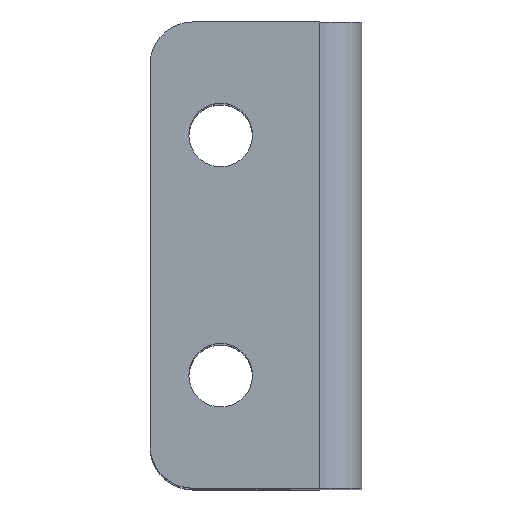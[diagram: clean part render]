
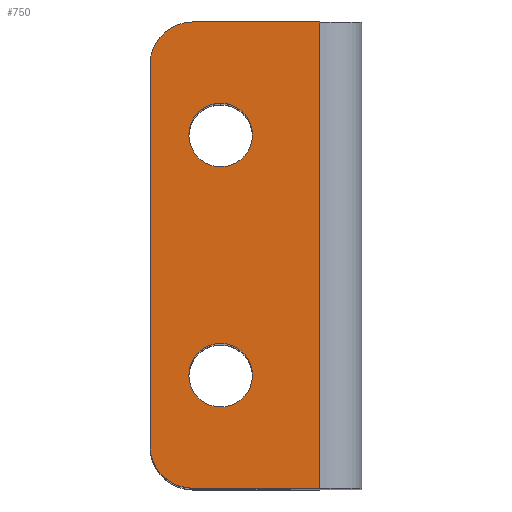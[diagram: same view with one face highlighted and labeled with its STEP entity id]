
A CAD part, top view. The second image highlights one B-rep face of the part: STEP entity #750.
In plain terms, the highlighted planar face has unit normal (0, 0, 1).
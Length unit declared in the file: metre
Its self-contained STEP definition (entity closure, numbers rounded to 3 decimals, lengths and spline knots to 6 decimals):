
#59=LINE('',#1233,#117);
#65=LINE('',#1248,#123);
#68=LINE('',#1254,#126);
#72=LINE('',#1272,#130);
#117=VECTOR('',#980,1.);
#123=VECTOR('',#992,1.);
#126=VECTOR('',#997,1.);
#130=VECTOR('',#1017,1.);
#236=ORIENTED_EDGE('',*,*,#427,.T.);
#237=ORIENTED_EDGE('',*,*,#438,.T.);
#238=ORIENTED_EDGE('',*,*,#419,.T.);
#239=ORIENTED_EDGE('',*,*,#439,.T.);
#240=ORIENTED_EDGE('',*,*,#430,.F.);
#241=ORIENTED_EDGE('',*,*,#440,.T.);
#242=ORIENTED_EDGE('',*,*,#436,.T.);
#243=ORIENTED_EDGE('',*,*,#437,.T.);
#419=EDGE_CURVE('',#524,#525,#59,.T.);
#427=EDGE_CURVE('',#530,#529,#65,.T.);
#430=EDGE_CURVE('',#531,#532,#68,.T.);
#436=EDGE_CURVE('',#536,#536,#582,.T.);
#437=EDGE_CURVE('',#537,#537,#583,.T.);
#438=EDGE_CURVE('',#529,#524,#584,.F.);
#439=EDGE_CURVE('',#525,#532,#72,.F.);
#440=EDGE_CURVE('',#531,#530,#585,.F.);
#524=VERTEX_POINT('',#1234);
#525=VERTEX_POINT('',#1235);
#529=VERTEX_POINT('',#1247);
#530=VERTEX_POINT('',#1249);
#531=VERTEX_POINT('',#1253);
#532=VERTEX_POINT('',#1255);
#536=VERTEX_POINT('',#1266);
#537=VERTEX_POINT('',#1269);
#582=CIRCLE('',#838,0.002858);
#583=CIRCLE('',#840,0.002858);
#584=CIRCLE('',#842,0.00381);
#585=CIRCLE('',#843,0.00381);
#616=EDGE_LOOP('',(#236,#237,#238,#239,#240,#241));
#617=EDGE_LOOP('',(#242));
#618=EDGE_LOOP('',(#243));
#682=FACE_BOUND('',#616,.T.);
#683=FACE_BOUND('',#617,.T.);
#684=FACE_BOUND('',#618,.T.);
#732=PLANE('',#841);
#750=ADVANCED_FACE('',(#682,#683,#684),#732,.F.);
#838=AXIS2_PLACEMENT_3D('',#1265,#1007,#1008);
#840=AXIS2_PLACEMENT_3D('',#1268,#1011,#1012);
#841=AXIS2_PLACEMENT_3D('',#1270,#1013,#1014);
#842=AXIS2_PLACEMENT_3D('',#1271,#1015,#1016);
#843=AXIS2_PLACEMENT_3D('',#1273,#1018,#1019);
#980=DIRECTION('',(1.,0.,0.));
#992=DIRECTION('',(0.,-1.,0.));
#997=DIRECTION('',(1.,0.,0.));
#1007=DIRECTION('',(0.,0.,-1.));
#1008=DIRECTION('',(0.,-1.,0.));
#1011=DIRECTION('',(0.,0.,-1.));
#1012=DIRECTION('',(0.,-1.,0.));
#1013=DIRECTION('',(0.,0.,-1.));
#1014=DIRECTION('',(0.,1.,0.));
#1015=DIRECTION('',(0.,0.,-1.));
#1016=DIRECTION('',(0.,-1.,0.));
#1017=DIRECTION('',(0.,-1.,0.));
#1018=DIRECTION('',(0.,0.,-1.));
#1019=DIRECTION('',(0.,-1.,0.));
#1233=CARTESIAN_POINT('',(0.049819,-0.020955,0.046644));
#1234=CARTESIAN_POINT('',(0.037754,-0.020955,0.046644));
#1235=CARTESIAN_POINT('',(0.049184,-0.020955,0.046644));
#1247=CARTESIAN_POINT('',(0.033944,-0.017145,0.046644));
#1248=CARTESIAN_POINT('',(0.033944,0.,0.046644));
#1249=CARTESIAN_POINT('',(0.033944,0.017145,0.046644));
#1253=CARTESIAN_POINT('',(0.037754,0.020955,0.046644));
#1254=CARTESIAN_POINT('',(0.049819,0.020955,0.046644));
#1255=CARTESIAN_POINT('',(0.049184,0.020955,0.046644));
#1265=CARTESIAN_POINT('',(0.040294,-0.010795,0.046644));
#1266=CARTESIAN_POINT('',(0.040294,-0.013653,0.046644));
#1268=CARTESIAN_POINT('',(0.040294,0.010795,0.046644));
#1269=CARTESIAN_POINT('',(0.040294,0.007938,0.046644));
#1270=CARTESIAN_POINT('',(0.043469,0.,0.046644));
#1271=CARTESIAN_POINT('',(0.037754,-0.017145,0.046644));
#1272=CARTESIAN_POINT('',(0.049184,0.,0.046644));
#1273=CARTESIAN_POINT('',(0.037754,0.017145,0.046644));
